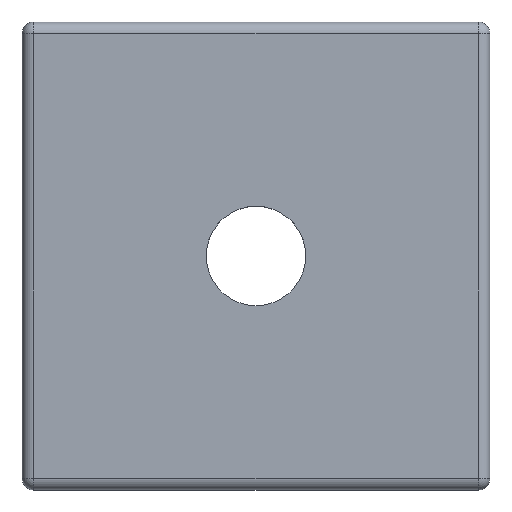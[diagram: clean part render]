
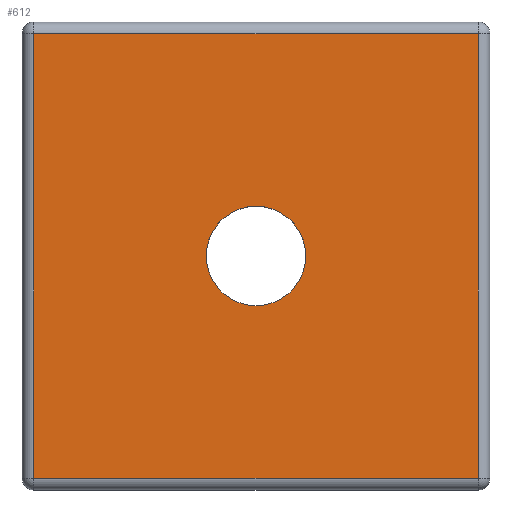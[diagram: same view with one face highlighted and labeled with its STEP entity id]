
A CAD part, top view. The second image highlights one B-rep face of the part: STEP entity #612.
In plain terms, the highlighted planar face has unit normal (0, 0, 1).
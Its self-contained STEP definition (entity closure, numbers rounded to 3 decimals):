
#94=CARTESIAN_POINT('',(-14.387,-9.037,3.2));
#95=VERTEX_POINT('',#94);
#96=CARTESIAN_POINT('',(-18.637,-9.037,3.2));
#97=DIRECTION('',(0.0,0.0,-1.0));
#98=DIRECTION('',(-1.0,0.0,0.0));
#99=AXIS2_PLACEMENT_3D('',#96,#97,#98);
#100=CIRCLE('',#99,4.25);
#101=EDGE_CURVE('',#95,#95,#100,.T.);
#272=CARTESIAN_POINT('',(-37.637,-28.037,3.2));
#273=VERTEX_POINT('',#272);
#281=CARTESIAN_POINT('',(-37.637,9.963,3.2));
#282=VERTEX_POINT('',#281);
#283=CARTESIAN_POINT('',(-37.637,-28.037,3.2));
#284=DIRECTION('',(0.0,1.0,0.0));
#285=VECTOR('',#284,38.0);
#286=LINE('',#283,#285);
#287=EDGE_CURVE('',#273,#282,#286,.T.);
#321=CARTESIAN_POINT('',(0.363,9.963,3.2));
#322=VERTEX_POINT('',#321);
#323=CARTESIAN_POINT('',(-37.637,9.963,3.2));
#324=DIRECTION('',(1.0,0.0,0.0));
#325=VECTOR('',#324,38.0);
#326=LINE('',#323,#325);
#327=EDGE_CURVE('',#282,#322,#326,.T.);
#361=CARTESIAN_POINT('',(0.363,-28.037,3.2));
#362=VERTEX_POINT('',#361);
#363=CARTESIAN_POINT('',(0.363,9.963,3.2));
#364=DIRECTION('',(0.0,-1.0,0.0));
#365=VECTOR('',#364,38.0);
#366=LINE('',#363,#365);
#367=EDGE_CURVE('',#322,#362,#366,.T.);
#418=CARTESIAN_POINT('',(0.363,-28.037,3.2));
#419=DIRECTION('',(-1.0,0.0,0.0));
#420=VECTOR('',#419,38.0);
#421=LINE('',#418,#420);
#422=EDGE_CURVE('',#362,#273,#421,.T.);
#598=CARTESIAN_POINT('',(-18.637,-9.037,3.2));
#599=DIRECTION('',(0.0,0.0,1.0));
#600=DIRECTION('',(1.0,0.0,0.0));
#601=AXIS2_PLACEMENT_3D('',#598,#599,#600);
#602=PLANE('',#601);
#603=ORIENTED_EDGE('',*,*,#287,.F.);
#604=ORIENTED_EDGE('',*,*,#422,.F.);
#605=ORIENTED_EDGE('',*,*,#367,.F.);
#606=ORIENTED_EDGE('',*,*,#327,.F.);
#607=EDGE_LOOP('',(#603,#604,#605,#606));
#608=FACE_OUTER_BOUND('',#607,.T.);
#609=ORIENTED_EDGE('',*,*,#101,.T.);
#610=EDGE_LOOP('',(#609));
#611=FACE_BOUND('',#610,.T.);
#612=ADVANCED_FACE('',(#608,#611),#602,.T.);
